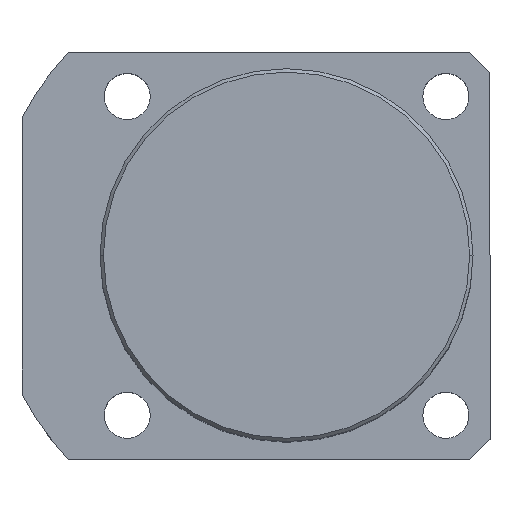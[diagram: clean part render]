
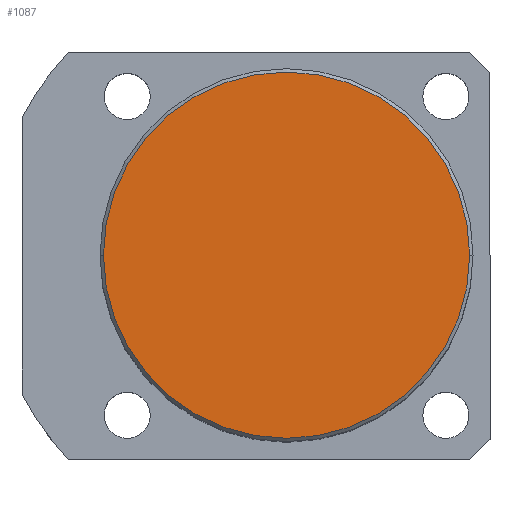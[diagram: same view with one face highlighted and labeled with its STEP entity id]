
A CAD part, top view. The second image highlights one B-rep face of the part: STEP entity #1087.
In plain terms, the highlighted planar face has unit normal (0, 0, 1).
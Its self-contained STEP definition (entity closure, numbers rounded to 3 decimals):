
#19 = DIRECTION ( 'NONE',  ( 0., 0., 1. ) ) ;
#34 = CARTESIAN_POINT ( 'NONE',  ( 27., 0., 70. ) ) ;
#183 = CARTESIAN_POINT ( 'NONE',  ( -27., 0., 70. ) ) ;
#313 = CIRCLE ( 'NONE', #814, 27. ) ;
#492 = CARTESIAN_POINT ( 'NONE',  ( 0., 0., 70. ) ) ;
#684 = DIRECTION ( 'NONE',  ( 1., 0., 0. ) ) ;
#753 = CIRCLE ( 'NONE', #2000, 27. ) ;
#765 = VERTEX_POINT ( 'NONE', #183 ) ;
#814 = AXIS2_PLACEMENT_3D ( 'NONE', #492, #1182, #1363 ) ;
#980 = EDGE_CURVE ( 'NONE', #765, #1505, #313, .T. ) ;
#1036 = CARTESIAN_POINT ( 'NONE',  ( 0., 0., 70. ) ) ;
#1066 = PLANE ( 'NONE',  #1868 ) ;
#1087 = ADVANCED_FACE ( 'NONE', ( #2036 ), #1066, .T. ) ;
#1182 = DIRECTION ( 'NONE',  ( 0., 0., 1. ) ) ;
#1194 = CARTESIAN_POINT ( 'NONE',  ( 0., 0., 70. ) ) ;
#1363 = DIRECTION ( 'NONE',  ( 1., 0., 0. ) ) ;
#1371 = DIRECTION ( 'NONE',  ( 1., 0., 0. ) ) ;
#1505 = VERTEX_POINT ( 'NONE', #34 ) ;
#1618 = EDGE_LOOP ( 'NONE', ( #1874, #1857 ) ) ;
#1750 = EDGE_CURVE ( 'NONE', #1505, #765, #753, .T. ) ;
#1857 = ORIENTED_EDGE ( 'NONE', *, *, #1750, .T. ) ;
#1868 = AXIS2_PLACEMENT_3D ( 'NONE', #1036, #2038, #1371 ) ;
#1874 = ORIENTED_EDGE ( 'NONE', *, *, #980, .T. ) ;
#2000 = AXIS2_PLACEMENT_3D ( 'NONE', #1194, #19, #684 ) ;
#2036 = FACE_OUTER_BOUND ( 'NONE', #1618, .T. ) ;
#2038 = DIRECTION ( 'NONE',  ( 0., 0., 1. ) ) ;
